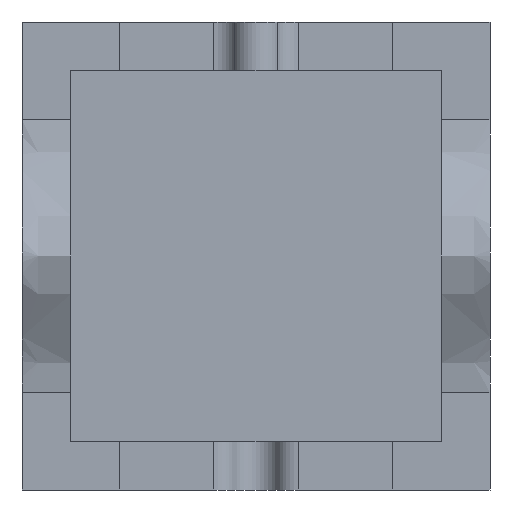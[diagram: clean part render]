
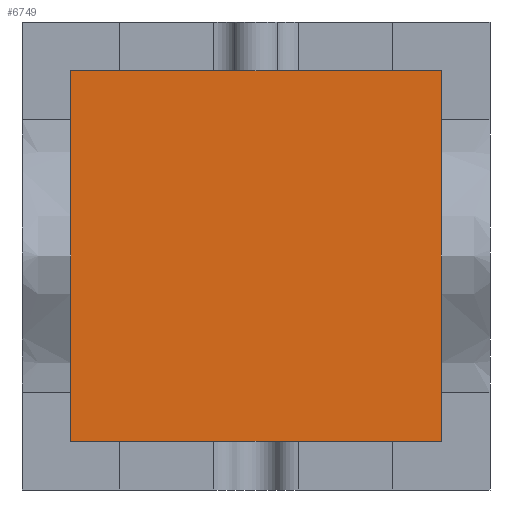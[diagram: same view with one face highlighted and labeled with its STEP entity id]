
A CAD part, front view. The second image highlights one B-rep face of the part: STEP entity #6749.
In plain terms, the highlighted planar face has unit normal (0, -1, 0).
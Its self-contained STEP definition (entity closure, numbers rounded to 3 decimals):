
#6623=CARTESIAN_POINT('Vertex',(-20.,-30.,-20.)) ;
#6628=CARTESIAN_POINT('Line Origine',(-20.,-30.,56.)) ;
#6632=CARTESIAN_POINT('Vertex',(-20.,-30.,132.)) ;
#6659=CARTESIAN_POINT('Line Origine',(56.,-30.,132.)) ;
#6663=CARTESIAN_POINT('Vertex',(132.,-30.,132.)) ;
#6690=CARTESIAN_POINT('Line Origine',(132.,-30.,56.)) ;
#6694=CARTESIAN_POINT('Vertex',(132.,-30.,-20.)) ;
#6721=CARTESIAN_POINT('Line Origine',(56.,-30.,-20.)) ;
#6738=CARTESIAN_POINT('Axis2P3D Location',(0.,-30.,0.)) ;
#6629=DIRECTION('Vector Direction',(0.,0.,-1.)) ;
#6660=DIRECTION('Vector Direction',(1.,0.,0.)) ;
#6691=DIRECTION('Vector Direction',(0.,0.,1.)) ;
#6722=DIRECTION('Vector Direction',(-1.,0.,0.)) ;
#6739=DIRECTION('Axis2P3D Direction',(0.,1.,0.)) ;
#6740=DIRECTION('Axis2P3D XDirection',(-1.,0.,0.)) ;
#6741=AXIS2_PLACEMENT_3D('Plane Axis2P3D',#6738,#6739,#6740) ;
#6744=ORIENTED_EDGE('',*,*,#6725,.F.) ;
#6745=ORIENTED_EDGE('',*,*,#6696,.F.) ;
#6746=ORIENTED_EDGE('',*,*,#6665,.F.) ;
#6747=ORIENTED_EDGE('',*,*,#6634,.F.) ;
#6630=VECTOR('Line Direction',#6629,1.) ;
#6661=VECTOR('Line Direction',#6660,1.) ;
#6692=VECTOR('Line Direction',#6691,1.) ;
#6723=VECTOR('Line Direction',#6722,1.) ;
#6749=ADVANCED_FACE('Cavity-molde',(#6748),#6742,.F.) ;
#6634=EDGE_CURVE('',#6624,#6633,#6631,.F.) ;
#6665=EDGE_CURVE('',#6633,#6664,#6662,.T.) ;
#6696=EDGE_CURVE('',#6664,#6695,#6693,.F.) ;
#6725=EDGE_CURVE('',#6695,#6624,#6724,.T.) ;
#6743=EDGE_LOOP('',(#6744,#6745,#6746,#6747)) ;
#6748=FACE_OUTER_BOUND('',#6743,.T.) ;
#6631=LINE('Line',#6628,#6630) ;
#6662=LINE('Line',#6659,#6661) ;
#6693=LINE('Line',#6690,#6692) ;
#6724=LINE('Line',#6721,#6723) ;
#6742=PLANE('',#6741) ;
#6624=VERTEX_POINT('',#6623) ;
#6633=VERTEX_POINT('',#6632) ;
#6664=VERTEX_POINT('',#6663) ;
#6695=VERTEX_POINT('',#6694) ;
